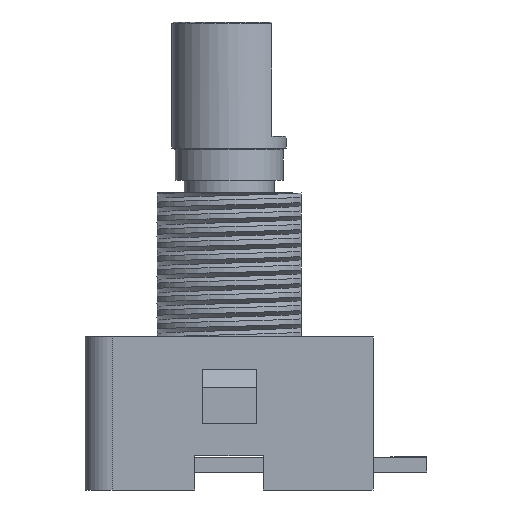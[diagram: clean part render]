
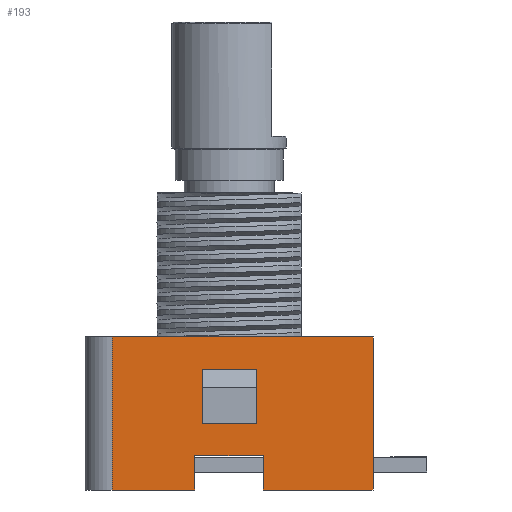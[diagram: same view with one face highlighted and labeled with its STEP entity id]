
A CAD part, left-side view. The second image highlights one B-rep face of the part: STEP entity #193.
In plain terms, the highlighted planar face has unit normal (-1, 0, 0).
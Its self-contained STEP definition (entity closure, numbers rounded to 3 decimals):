
#122 = VERTEX_POINT ( 'NONE', #8053 ) ;
#193 = ADVANCED_FACE ( 'NONE', ( #27577, #20829 ), #21749, .F. ) ;
#195 = VECTOR ( 'NONE', #12742, 1000. ) ;
#636 = CARTESIAN_POINT ( 'NONE',  ( -7., 1.5, 3.7 ) ) ;
#834 = VERTEX_POINT ( 'NONE', #15581 ) ;
#1293 = EDGE_CURVE ( 'NONE', #29267, #834, #5565, .T. ) ;
#2040 = VERTEX_POINT ( 'NONE', #25210 ) ;
#2337 = CARTESIAN_POINT ( 'NONE',  ( -7., -1.9, 1.9 ) ) ;
#2771 = ORIENTED_EDGE ( 'NONE', *, *, #16027, .T. ) ;
#2981 = LINE ( 'NONE', #22922, #23554 ) ;
#2997 = ORIENTED_EDGE ( 'NONE', *, *, #21641, .F. ) ;
#3114 = VECTOR ( 'NONE', #24342, 1000. ) ;
#3806 = VECTOR ( 'NONE', #4564, 1000. ) ;
#3892 = VECTOR ( 'NONE', #13894, 1000. ) ;
#3898 = ORIENTED_EDGE ( 'NONE', *, *, #22035, .T. ) ;
#3904 = EDGE_LOOP ( 'NONE', ( #2771, #25722, #20905, #21469, #19912, #11420, #2997, #23766 ) ) ;
#4169 = EDGE_CURVE ( 'NONE', #22766, #2040, #9202, .T. ) ;
#4564 = DIRECTION ( 'NONE',  ( 0., 0., -1. ) ) ;
#4635 = CARTESIAN_POINT ( 'NONE',  ( -7., -8., 8.5 ) ) ;
#4648 = VERTEX_POINT ( 'NONE', #15585 ) ;
#5292 = DIRECTION ( 'NONE',  ( 0., 0., -1. ) ) ;
#5565 = LINE ( 'NONE', #9698, #14049 ) ;
#6043 = CARTESIAN_POINT ( 'NONE',  ( -7., -1.5, 6.7 ) ) ;
#6927 = DIRECTION ( 'NONE',  ( 0., -1., 0. ) ) ;
#7686 = DIRECTION ( 'NONE',  ( 0., 0., -1. ) ) ;
#8053 = CARTESIAN_POINT ( 'NONE',  ( -7., 6.5, 8.5 ) ) ;
#8058 = ORIENTED_EDGE ( 'NONE', *, *, #26351, .T. ) ;
#8165 = DIRECTION ( 'NONE',  ( 0., -1., 0. ) ) ;
#8401 = LINE ( 'NONE', #18803, #25463 ) ;
#8621 = VECTOR ( 'NONE', #29137, 1000. ) ;
#9202 = LINE ( 'NONE', #27490, #3892 ) ;
#9698 = CARTESIAN_POINT ( 'NONE',  ( -7., -8., 8.5 ) ) ;
#9733 = VECTOR ( 'NONE', #6927, 1000. ) ;
#10181 = VECTOR ( 'NONE', #5292, 1000. ) ;
#10528 = DIRECTION ( 'NONE',  ( 0., 1., 0. ) ) ;
#10619 = DIRECTION ( 'NONE',  ( 1., 0., 0. ) ) ;
#11420 = ORIENTED_EDGE ( 'NONE', *, *, #1293, .F. ) ;
#12057 = CARTESIAN_POINT ( 'NONE',  ( -7., 6.5, 0. ) ) ;
#12345 = LINE ( 'NONE', #19401, #195 ) ;
#12742 = DIRECTION ( 'NONE',  ( 0., 0., 1. ) ) ;
#12924 = LINE ( 'NONE', #21477, #29276 ) ;
#13894 = DIRECTION ( 'NONE',  ( 0., 1., 0. ) ) ;
#14049 = VECTOR ( 'NONE', #18634, 1000. ) ;
#14067 = LINE ( 'NONE', #25731, #10181 ) ;
#14484 = EDGE_LOOP ( 'NONE', ( #3898, #8058, #21576, #18838 ) ) ;
#15581 = CARTESIAN_POINT ( 'NONE',  ( -7., -8., 0. ) ) ;
#15585 = CARTESIAN_POINT ( 'NONE',  ( -7., -1.5, 3.7 ) ) ;
#15878 = VECTOR ( 'NONE', #22936, 1000. ) ;
#15976 = CARTESIAN_POINT ( 'NONE',  ( -7., 1.9, 0. ) ) ;
#16027 = EDGE_CURVE ( 'NONE', #28970, #26222, #12924, .T. ) ;
#17070 = CARTESIAN_POINT ( 'NONE',  ( -7., 1.9, 0. ) ) ;
#17322 = LINE ( 'NONE', #27602, #15878 ) ;
#17354 = EDGE_CURVE ( 'NONE', #26362, #834, #18969, .T. ) ;
#18478 = CARTESIAN_POINT ( 'NONE',  ( -7., 1.9, 1.9 ) ) ;
#18634 = DIRECTION ( 'NONE',  ( 0., 0., -1. ) ) ;
#18803 = CARTESIAN_POINT ( 'NONE',  ( -7., 6.5, 8.5 ) ) ;
#18838 = ORIENTED_EDGE ( 'NONE', *, *, #4169, .F. ) ;
#18969 = LINE ( 'NONE', #20544, #9733 ) ;
#19401 = CARTESIAN_POINT ( 'NONE',  ( -7., -1.9, 0. ) ) ;
#19781 = EDGE_CURVE ( 'NONE', #26362, #26790, #12345, .T. ) ;
#19909 = CARTESIAN_POINT ( 'NONE',  ( -7., -1.5, 3.7 ) ) ;
#19912 = ORIENTED_EDGE ( 'NONE', *, *, #17354, .T. ) ;
#19958 = EDGE_CURVE ( 'NONE', #2040, #24460, #23678, .T. ) ;
#20544 = CARTESIAN_POINT ( 'NONE',  ( -7., 8., 0. ) ) ;
#20829 = FACE_BOUND ( 'NONE', #14484, .T. ) ;
#20905 = ORIENTED_EDGE ( 'NONE', *, *, #25224, .F. ) ;
#21469 = ORIENTED_EDGE ( 'NONE', *, *, #19781, .F. ) ;
#21477 = CARTESIAN_POINT ( 'NONE',  ( -7., 8., 0. ) ) ;
#21576 = ORIENTED_EDGE ( 'NONE', *, *, #19958, .F. ) ;
#21605 = VERTEX_POINT ( 'NONE', #18478 ) ;
#21641 = EDGE_CURVE ( 'NONE', #122, #29267, #17322, .T. ) ;
#21749 = PLANE ( 'NONE',  #26888 ) ;
#21971 = CARTESIAN_POINT ( 'NONE',  ( -7., 1.5, 6.7 ) ) ;
#22035 = EDGE_CURVE ( 'NONE', #22766, #4648, #14067, .T. ) ;
#22285 = CARTESIAN_POINT ( 'NONE',  ( -7., -1.9, 0. ) ) ;
#22766 = VERTEX_POINT ( 'NONE', #6043 ) ;
#22922 = CARTESIAN_POINT ( 'NONE',  ( -7., 1.9, 1.9 ) ) ;
#22936 = DIRECTION ( 'NONE',  ( 0., -1., 0. ) ) ;
#23391 = EDGE_CURVE ( 'NONE', #122, #28970, #8401, .T. ) ;
#23554 = VECTOR ( 'NONE', #27591, 1000. ) ;
#23678 = LINE ( 'NONE', #21971, #3114 ) ;
#23766 = ORIENTED_EDGE ( 'NONE', *, *, #23391, .T. ) ;
#24275 = EDGE_CURVE ( 'NONE', #21605, #26222, #29357, .T. ) ;
#24342 = DIRECTION ( 'NONE',  ( 0., 0., -1. ) ) ;
#24460 = VERTEX_POINT ( 'NONE', #636 ) ;
#25210 = CARTESIAN_POINT ( 'NONE',  ( -7., 1.5, 6.7 ) ) ;
#25224 = EDGE_CURVE ( 'NONE', #26790, #21605, #2981, .T. ) ;
#25463 = VECTOR ( 'NONE', #7686, 1000. ) ;
#25662 = LINE ( 'NONE', #19909, #8621 ) ;
#25722 = ORIENTED_EDGE ( 'NONE', *, *, #24275, .F. ) ;
#25731 = CARTESIAN_POINT ( 'NONE',  ( -7., -1.5, 6.7 ) ) ;
#26211 = CARTESIAN_POINT ( 'NONE',  ( -7., 8., 8.5 ) ) ;
#26222 = VERTEX_POINT ( 'NONE', #17070 ) ;
#26351 = EDGE_CURVE ( 'NONE', #4648, #24460, #25662, .T. ) ;
#26362 = VERTEX_POINT ( 'NONE', #22285 ) ;
#26790 = VERTEX_POINT ( 'NONE', #2337 ) ;
#26888 = AXIS2_PLACEMENT_3D ( 'NONE', #26211, #10619, #10528 ) ;
#27490 = CARTESIAN_POINT ( 'NONE',  ( -7., -1.5, 6.7 ) ) ;
#27577 = FACE_OUTER_BOUND ( 'NONE', #3904, .T. ) ;
#27591 = DIRECTION ( 'NONE',  ( 0., 1., 0. ) ) ;
#27602 = CARTESIAN_POINT ( 'NONE',  ( -7., 8., 8.5 ) ) ;
#28970 = VERTEX_POINT ( 'NONE', #12057 ) ;
#29137 = DIRECTION ( 'NONE',  ( 0., 1., 0. ) ) ;
#29267 = VERTEX_POINT ( 'NONE', #4635 ) ;
#29276 = VECTOR ( 'NONE', #8165, 1000. ) ;
#29357 = LINE ( 'NONE', #15976, #3806 ) ;
